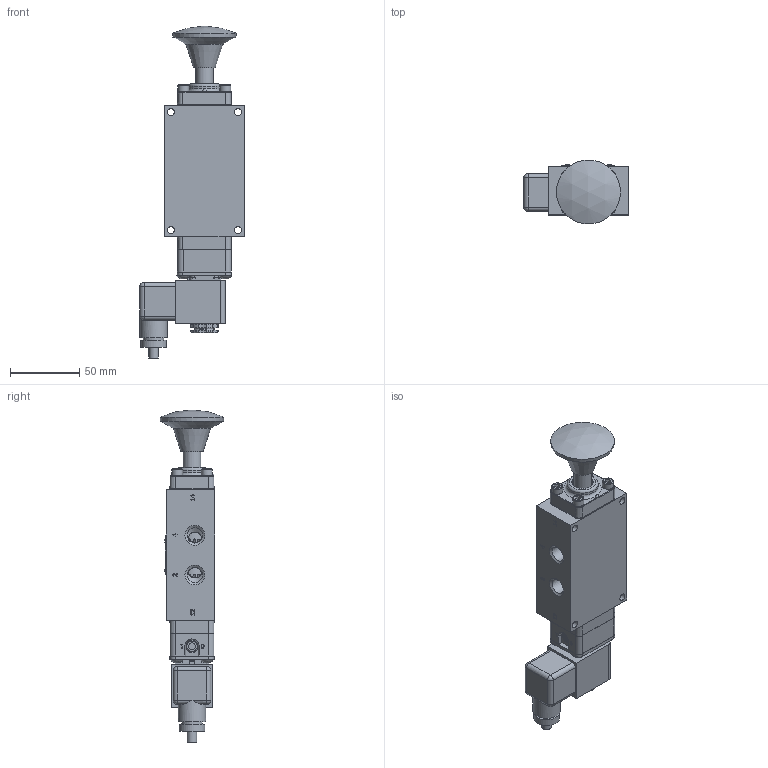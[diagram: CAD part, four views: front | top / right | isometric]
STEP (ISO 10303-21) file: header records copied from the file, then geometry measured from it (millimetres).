
FILE_DESCRIPTION(/* description */ (''),/* implementation_level */ '2;1');
FILE_NAME(/* name */ 'D:\Engineering\Product\valves\Assembly\Standard\ESAK\stp\ESAK2TC.stp',/* time_stamp */ '2021-03-27T19:48:54-04:00',/* author */ ('RMcKenna'),/* organization */ (''),/* preprocessor_version */ 'ST-DEVELOPER v18.1',/* originating_system */ 'Autodesk Inventor 2021',/* authorisation */ '');
FILE_SCHEMA (('AUTOMOTIVE_DESIGN { 1 0 10303 214 3 1 1 }'));
Length unit declared in the file: centimetre
Products named in the file (1): Part58
Bounding box: 75.06 x 46.04 x 239.04 mm (x, y, z)
Volume: 279952.7 mm3; surface area: 85240.3 mm2
Topology: 2 solids, 38 shells, 1781 faces, 4511 edges, 2928 vertices
Faces by surface type: plane 758, cylinder 451, cone 288, torus 157, bspline 115, sphere 12
Full cylindrical faces by diameter (mm): 1.168 x10, 1.3 x1, 1.397 x1, 1.5 x1, 2.032 x8, 2.07 x2, 2.261 x2, 2.35 x4, 2.778 x2, 2.8 x1, 2.819 x1, 3 x4, 3.048 x2, 3.175 x1, 3.4 x1, 3.683 x12, 3.912 x3, 4.191 x2, 4.394 x1, 4.826 x8, 4.953 x1, 5.15 x4, 5.156 x12, 5.5 x1, 6.401 x2, 6.553 x1, 6.731 x1, 7.29 x1, 7.938 x4, 8 x2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
Entity records: 60612 total; most frequent: CARTESIAN_POINT 15854, ORIENTED_EDGE 8978, DIRECTION 8941, EDGE_CURVE 4489, AXIS2_PLACEMENT_3D 3415, VERTEX_POINT 2928, LINE 2111, VECTOR 2111
